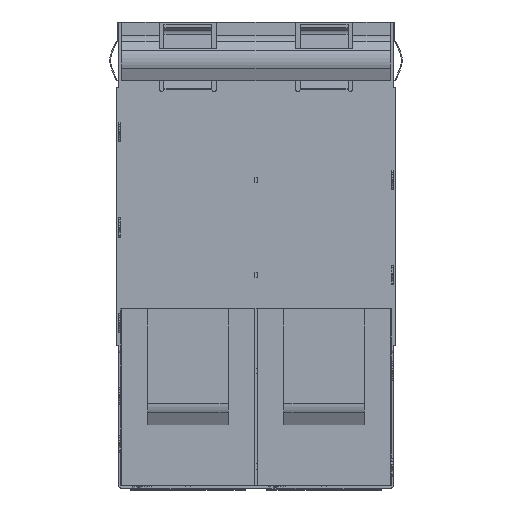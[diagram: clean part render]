
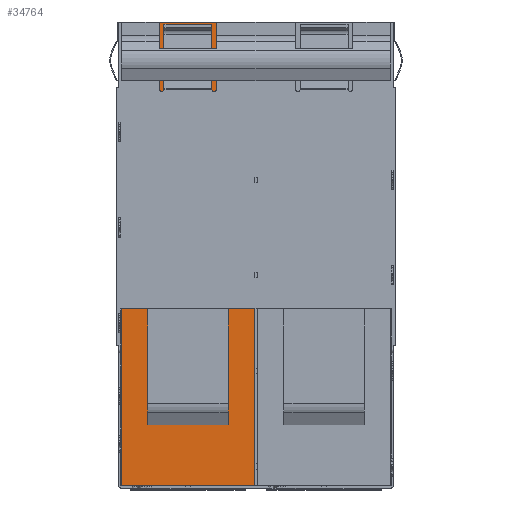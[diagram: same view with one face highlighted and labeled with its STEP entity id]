
A CAD part, front view. The second image highlights one B-rep face of the part: STEP entity #34764.
In plain terms, the highlighted planar face has unit normal (0, -1, 0).
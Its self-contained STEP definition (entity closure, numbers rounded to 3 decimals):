
#849 = FACE_OUTER_BOUND ( 'NONE', #35864, .T. ) ;
#5388 = CARTESIAN_POINT ( 'NONE',  ( 14.075, 9.2, 0. ) ) ;
#6172 = VECTOR ( 'NONE', #25786, 1000. ) ;
#7095 = LINE ( 'NONE', #24748, #14303 ) ;
#7637 = DIRECTION ( 'NONE',  ( 0., 1., 0. ) ) ;
#7897 = PLANE ( 'NONE',  #17038 ) ;
#8609 = EDGE_CURVE ( 'NONE', #19948, #16498, #25263, .T. ) ;
#9520 = CARTESIAN_POINT ( 'NONE',  ( -0.125, 9.2, 0. ) ) ;
#10382 = VERTEX_POINT ( 'NONE', #17626 ) ;
#10896 = DIRECTION ( 'NONE',  ( 0., 0., -1. ) ) ;
#10965 = ORIENTED_EDGE ( 'NONE', *, *, #11897, .F. ) ;
#11071 = DIRECTION ( 'NONE',  ( -1., 0., 0. ) ) ;
#11197 = LINE ( 'NONE', #22388, #23794 ) ;
#11694 = CARTESIAN_POINT ( 'NONE',  ( -14.075, 9.2, -78.384 ) ) ;
#11897 = EDGE_CURVE ( 'NONE', #26727, #10382, #11197, .T. ) ;
#12511 = EDGE_CURVE ( 'NONE', #10382, #16498, #20582, .T. ) ;
#14303 = VECTOR ( 'NONE', #10896, 1000. ) ;
#15787 = VECTOR ( 'NONE', #11071, 1000. ) ;
#16498 = VERTEX_POINT ( 'NONE', #19843 ) ;
#17038 = AXIS2_PLACEMENT_3D ( 'NONE', #24666, #7637, #36209 ) ;
#17626 = CARTESIAN_POINT ( 'NONE',  ( -14.075, 9.2, -48.5 ) ) ;
#17875 = EDGE_CURVE ( 'NONE', #19948, #26727, #7095, .T. ) ;
#19843 = CARTESIAN_POINT ( 'NONE',  ( -14.075, 9.2, 0. ) ) ;
#19948 = VERTEX_POINT ( 'NONE', #9520 ) ;
#20582 = LINE ( 'NONE', #11694, #6172 ) ;
#22159 = ORIENTED_EDGE ( 'NONE', *, *, #12511, .F. ) ;
#22388 = CARTESIAN_POINT ( 'NONE',  ( 14.075, 9.2, -48.5 ) ) ;
#23794 = VECTOR ( 'NONE', #30786, 1000. ) ;
#24666 = CARTESIAN_POINT ( 'NONE',  ( 14.075, 9.2, -78.384 ) ) ;
#24748 = CARTESIAN_POINT ( 'NONE',  ( -0.125, 9.2, 8.953 ) ) ;
#25263 = LINE ( 'NONE', #5388, #15787 ) ;
#25786 = DIRECTION ( 'NONE',  ( 0., 0., 1. ) ) ;
#26727 = VERTEX_POINT ( 'NONE', #29873 ) ;
#29873 = CARTESIAN_POINT ( 'NONE',  ( -0.125, 9.2, -48.5 ) ) ;
#30786 = DIRECTION ( 'NONE',  ( -1., 0., 0. ) ) ;
#31970 = ORIENTED_EDGE ( 'NONE', *, *, #17875, .F. ) ;
#34764 = ADVANCED_FACE ( 'NONE', ( #849 ), #7897, .F. ) ;
#35736 = ORIENTED_EDGE ( 'NONE', *, *, #8609, .T. ) ;
#35864 = EDGE_LOOP ( 'NONE', ( #31970, #35736, #22159, #10965 ) ) ;
#36209 = DIRECTION ( 'NONE',  ( 1., 0., 0. ) ) ;
